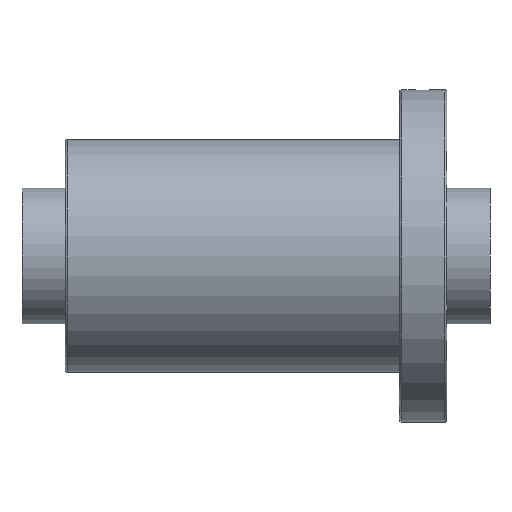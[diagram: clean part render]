
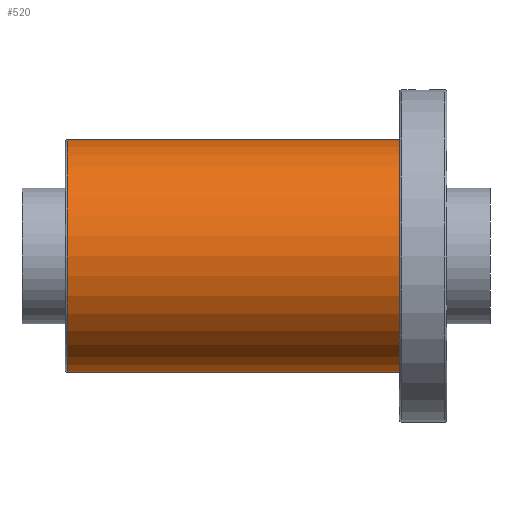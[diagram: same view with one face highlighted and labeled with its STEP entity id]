
A CAD part, front view. The second image highlights one B-rep face of the part: STEP entity #520.
In plain terms, the highlighted cylindrical face has radius 54 mm (diameter 108 mm), a full revolution.
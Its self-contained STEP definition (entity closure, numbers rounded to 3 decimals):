
#140=ORIENTED_EDGE('',*,*,#215,.T.);
#141=ORIENTED_EDGE('',*,*,#216,.F.);
#215=EDGE_CURVE('',#265,#265,#306,.T.);
#216=EDGE_CURVE('',#266,#266,#307,.T.);
#265=VERTEX_POINT('',#913);
#266=VERTEX_POINT('',#916);
#306=CIRCLE('',#617,54.);
#307=CIRCLE('',#619,54.);
#371=EDGE_LOOP('',(#140));
#372=EDGE_LOOP('',(#141));
#452=FACE_BOUND('',#371,.T.);
#453=FACE_BOUND('',#372,.T.);
#488=CYLINDRICAL_SURFACE('',#618,54.);
#520=ADVANCED_FACE('',(#452,#453),#488,.T.);
#617=AXIS2_PLACEMENT_3D('',#912,#757,#758);
#618=AXIS2_PLACEMENT_3D('',#914,#759,#760);
#619=AXIS2_PLACEMENT_3D('',#915,#761,#762);
#757=DIRECTION('',(1.,0.,0.));
#758=DIRECTION('',(0.,0.,-1.));
#759=DIRECTION('',(1.,0.,0.));
#760=DIRECTION('',(0.,0.,1.));
#761=DIRECTION('',(1.,0.,0.));
#762=DIRECTION('',(0.,0.,-1.));
#912=CARTESIAN_POINT('',(-193.5,0.,0.));
#913=CARTESIAN_POINT('',(-193.5,0.,-54.));
#914=CARTESIAN_POINT('',(-140.,0.,0.));
#915=CARTESIAN_POINT('',(-39.5,0.,0.));
#916=CARTESIAN_POINT('',(-39.5,0.,-54.));
